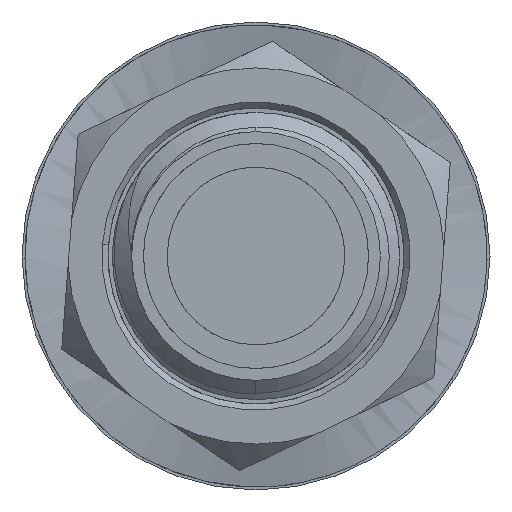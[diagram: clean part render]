
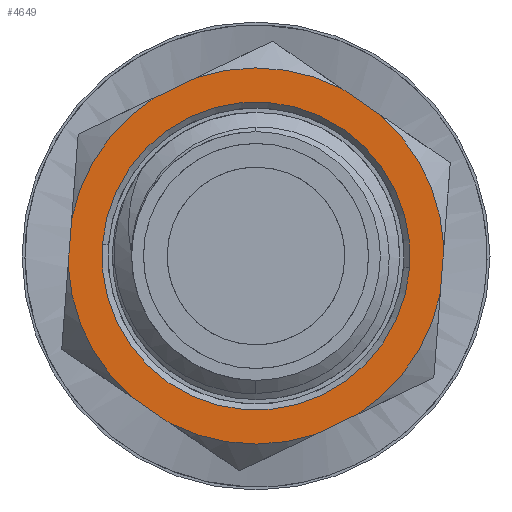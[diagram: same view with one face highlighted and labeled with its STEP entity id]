
A CAD part, front view. The second image highlights one B-rep face of the part: STEP entity #4649.
In plain terms, the highlighted planar face has unit normal (0, -1, 0) as drawn and (0, 0, -1) by its records, which use the part's own axes.
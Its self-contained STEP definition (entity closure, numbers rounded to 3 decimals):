
#39 = DIRECTION ( 'NONE',  ( 0., 0., 1. ) ) ;
#102 = AXIS2_PLACEMENT_3D ( 'NONE', #4194, #5697, #5763 ) ;
#154 = VECTOR ( 'NONE', #4182, 1000. ) ;
#172 = ORIENTED_EDGE ( 'NONE', *, *, #5260, .F. ) ;
#230 = CIRCLE ( 'NONE', #4264, 3.175 ) ;
#363 = VECTOR ( 'NONE', #5917, 1000. ) ;
#369 = CARTESIAN_POINT ( 'NONE',  ( 0., 0., 0. ) ) ;
#458 = CARTESIAN_POINT ( 'NONE',  ( 1.231, 2.927, 0. ) ) ;
#481 = EDGE_CURVE ( 'NONE', #3800, #3149, #3135, .T. ) ;
#497 = EDGE_CURVE ( 'NONE', #4861, #4619, #3025, .T. ) ;
#511 = CARTESIAN_POINT ( 'NONE',  ( 0., 0., 0. ) ) ;
#520 = VERTEX_POINT ( 'NONE', #1035 ) ;
#532 = ORIENTED_EDGE ( 'NONE', *, *, #481, .T. ) ;
#667 = EDGE_CURVE ( 'NONE', #1904, #3149, #3292, .T. ) ;
#858 = ORIENTED_EDGE ( 'NONE', *, *, #3393, .F. ) ;
#876 = CIRCLE ( 'NONE', #6546, 2.6 ) ;
#1008 = DIRECTION ( 'NONE',  ( 1., 0., 0. ) ) ;
#1025 = CARTESIAN_POINT ( 'NONE',  ( -3.15, -1.819, 0. ) ) ;
#1035 = CARTESIAN_POINT ( 'NONE',  ( 3.15, -0.398, 0. ) ) ;
#1058 = EDGE_LOOP ( 'NONE', ( #2445, #3152 ) ) ;
#1103 = VERTEX_POINT ( 'NONE', #3827 ) ;
#1159 = CIRCLE ( 'NONE', #4450, 3.175 ) ;
#1227 = VECTOR ( 'NONE', #5355, 1000. ) ;
#1293 = AXIS2_PLACEMENT_3D ( 'NONE', #511, #39, #1008 ) ;
#1375 = DIRECTION ( 'NONE',  ( 0., 0., -1. ) ) ;
#1463 = DIRECTION ( 'NONE',  ( 0.866, 0.5, 0. ) ) ;
#1534 = DIRECTION ( 'NONE',  ( -0.866, -0.5, 0. ) ) ;
#1536 = ORIENTED_EDGE ( 'NONE', *, *, #667, .F. ) ;
#1574 = CARTESIAN_POINT ( 'NONE',  ( 0., 0., 0. ) ) ;
#1735 = EDGE_CURVE ( 'NONE', #3126, #5843, #1159, .T. ) ;
#1753 = CARTESIAN_POINT ( 'NONE',  ( 3.15, -1.819, 0. ) ) ;
#1790 = CARTESIAN_POINT ( 'NONE',  ( -1.231, -2.927, 0. ) ) ;
#1819 = DIRECTION ( 'NONE',  ( 0., -1., 0. ) ) ;
#1904 = VERTEX_POINT ( 'NONE', #4232 ) ;
#2100 = CARTESIAN_POINT ( 'NONE',  ( -1.919, -2.529, 0. ) ) ;
#2329 = CARTESIAN_POINT ( 'NONE',  ( -2.6, 0., 0. ) ) ;
#2366 = AXIS2_PLACEMENT_3D ( 'NONE', #2646, #4744, #3670 ) ;
#2382 = VECTOR ( 'NONE', #1463, 1000. ) ;
#2445 = ORIENTED_EDGE ( 'NONE', *, *, #5026, .T. ) ;
#2450 = LINE ( 'NONE', #6611, #3801 ) ;
#2514 = LINE ( 'NONE', #5164, #2382 ) ;
#2539 = ORIENTED_EDGE ( 'NONE', *, *, #5580, .F. ) ;
#2646 = CARTESIAN_POINT ( 'NONE',  ( 0., 0., 0. ) ) ;
#2675 = CARTESIAN_POINT ( 'NONE',  ( 1.919, 2.529, 0. ) ) ;
#2765 = CARTESIAN_POINT ( 'NONE',  ( 1.231, -2.927, 0. ) ) ;
#2837 = AXIS2_PLACEMENT_3D ( 'NONE', #5654, #3432, #6095 ) ;
#3025 = CIRCLE ( 'NONE', #102, 3.175 ) ;
#3034 = ORIENTED_EDGE ( 'NONE', *, *, #3187, .T. ) ;
#3059 = AXIS2_PLACEMENT_3D ( 'NONE', #5082, #5519, #3983 ) ;
#3071 = DIRECTION ( 'NONE',  ( 1., 0., 0. ) ) ;
#3126 = VERTEX_POINT ( 'NONE', #2765 ) ;
#3135 = CIRCLE ( 'NONE', #2366, 3.175 ) ;
#3149 = VERTEX_POINT ( 'NONE', #6258 ) ;
#3152 = ORIENTED_EDGE ( 'NONE', *, *, #3753, .T. ) ;
#3187 = EDGE_CURVE ( 'NONE', #1904, #6291, #6630, .T. ) ;
#3199 = LINE ( 'NONE', #4335, #1227 ) ;
#3292 = LINE ( 'NONE', #3906, #3884 ) ;
#3317 = VERTEX_POINT ( 'NONE', #5093 ) ;
#3393 = EDGE_CURVE ( 'NONE', #5372, #6291, #2450, .T. ) ;
#3432 = DIRECTION ( 'NONE',  ( 0., 0., 1. ) ) ;
#3438 = EDGE_CURVE ( 'NONE', #3126, #1103, #2514, .T. ) ;
#3603 = CIRCLE ( 'NONE', #3059, 3.175 ) ;
#3657 = DIRECTION ( 'NONE',  ( 1., 0., 0. ) ) ;
#3670 = DIRECTION ( 'NONE',  ( 1., 0., 0. ) ) ;
#3677 = ORIENTED_EDGE ( 'NONE', *, *, #3438, .F. ) ;
#3681 = DIRECTION ( 'NONE',  ( 0., 0., -1. ) ) ;
#3753 = EDGE_CURVE ( 'NONE', #3317, #5052, #4260, .T. ) ;
#3794 = ORIENTED_EDGE ( 'NONE', *, *, #6456, .F. ) ;
#3800 = VERTEX_POINT ( 'NONE', #2100 ) ;
#3801 = VECTOR ( 'NONE', #1534, 1000. ) ;
#3827 = CARTESIAN_POINT ( 'NONE',  ( 1.919, -2.529, 0. ) ) ;
#3832 = DIRECTION ( 'NONE',  ( 0., 0., 1. ) ) ;
#3884 = VECTOR ( 'NONE', #1819, 1000. ) ;
#3906 = CARTESIAN_POINT ( 'NONE',  ( -3.15, 1.819, 0. ) ) ;
#3983 = DIRECTION ( 'NONE',  ( 1., 0., 0. ) ) ;
#4016 = PLANE ( 'NONE',  #2837 ) ;
#4027 = AXIS2_PLACEMENT_3D ( 'NONE', #1574, #5297, #3657 ) ;
#4102 = EDGE_CURVE ( 'NONE', #5372, #5210, #230, .T. ) ;
#4182 = DIRECTION ( 'NONE',  ( 0.866, -0.5, 0. ) ) ;
#4194 = CARTESIAN_POINT ( 'NONE',  ( 0., 0., 0. ) ) ;
#4211 = ORIENTED_EDGE ( 'NONE', *, *, #4102, .T. ) ;
#4232 = CARTESIAN_POINT ( 'NONE',  ( -3.15, 0.398, 0. ) ) ;
#4260 = CIRCLE ( 'NONE', #1293, 2.6 ) ;
#4264 = AXIS2_PLACEMENT_3D ( 'NONE', #369, #1375, #6127 ) ;
#4335 = CARTESIAN_POINT ( 'NONE',  ( 3.15, 1.819, 0. ) ) ;
#4450 = AXIS2_PLACEMENT_3D ( 'NONE', #6278, #3681, #3071 ) ;
#4454 = ORIENTED_EDGE ( 'NONE', *, *, #1735, .T. ) ;
#4532 = FACE_OUTER_BOUND ( 'NONE', #5403, .T. ) ;
#4565 = CARTESIAN_POINT ( 'NONE',  ( 3.15, 0.398, 0. ) ) ;
#4619 = VERTEX_POINT ( 'NONE', #4565 ) ;
#4649 = ADVANCED_FACE ( 'NONE', ( #5111, #4532 ), #4016, .F. ) ;
#4709 = EDGE_CURVE ( 'NONE', #520, #1103, #3603, .T. ) ;
#4744 = DIRECTION ( 'NONE',  ( 0., 0., -1. ) ) ;
#4861 = VERTEX_POINT ( 'NONE', #2675 ) ;
#5026 = EDGE_CURVE ( 'NONE', #5052, #3317, #876, .T. ) ;
#5052 = VERTEX_POINT ( 'NONE', #2329 ) ;
#5082 = CARTESIAN_POINT ( 'NONE',  ( 0., 0., 0. ) ) ;
#5093 = CARTESIAN_POINT ( 'NONE',  ( 2.6, 0., 0. ) ) ;
#5111 = FACE_BOUND ( 'NONE', #1058, .T. ) ;
#5164 = CARTESIAN_POINT ( 'NONE',  ( 0., -3.637, 0. ) ) ;
#5210 = VERTEX_POINT ( 'NONE', #458 ) ;
#5223 = CARTESIAN_POINT ( 'NONE',  ( -1.919, 2.529, 0. ) ) ;
#5250 = ORIENTED_EDGE ( 'NONE', *, *, #497, .T. ) ;
#5260 = EDGE_CURVE ( 'NONE', #3800, #5843, #6226, .T. ) ;
#5297 = DIRECTION ( 'NONE',  ( 0., 0., -1. ) ) ;
#5355 = DIRECTION ( 'NONE',  ( -0.866, 0.5, 0. ) ) ;
#5372 = VERTEX_POINT ( 'NONE', #6730 ) ;
#5403 = EDGE_LOOP ( 'NONE', ( #2539, #6555, #3677, #4454, #172, #532, #1536, #3034, #858, #4211, #3794, #5250 ) ) ;
#5519 = DIRECTION ( 'NONE',  ( 0., 0., -1. ) ) ;
#5580 = EDGE_CURVE ( 'NONE', #520, #4619, #6425, .T. ) ;
#5654 = CARTESIAN_POINT ( 'NONE',  ( 0., 3.637, 0. ) ) ;
#5697 = DIRECTION ( 'NONE',  ( 0., 0., -1. ) ) ;
#5763 = DIRECTION ( 'NONE',  ( 1., 0., 0. ) ) ;
#5843 = VERTEX_POINT ( 'NONE', #1790 ) ;
#5917 = DIRECTION ( 'NONE',  ( 0., 1., 0. ) ) ;
#5956 = DIRECTION ( 'NONE',  ( 1., 0., 0. ) ) ;
#6095 = DIRECTION ( 'NONE',  ( 1., 0., 0. ) ) ;
#6127 = DIRECTION ( 'NONE',  ( 1., 0., 0. ) ) ;
#6226 = LINE ( 'NONE', #1025, #154 ) ;
#6258 = CARTESIAN_POINT ( 'NONE',  ( -3.15, -0.398, 0. ) ) ;
#6278 = CARTESIAN_POINT ( 'NONE',  ( 0., 0., 0. ) ) ;
#6291 = VERTEX_POINT ( 'NONE', #5223 ) ;
#6425 = LINE ( 'NONE', #1753, #363 ) ;
#6433 = CARTESIAN_POINT ( 'NONE',  ( 0., 0., 0. ) ) ;
#6456 = EDGE_CURVE ( 'NONE', #4861, #5210, #3199, .T. ) ;
#6546 = AXIS2_PLACEMENT_3D ( 'NONE', #6433, #3832, #5956 ) ;
#6555 = ORIENTED_EDGE ( 'NONE', *, *, #4709, .T. ) ;
#6611 = CARTESIAN_POINT ( 'NONE',  ( 0., 3.637, 0. ) ) ;
#6630 = CIRCLE ( 'NONE', #4027, 3.175 ) ;
#6730 = CARTESIAN_POINT ( 'NONE',  ( -1.231, 2.927, 0. ) ) ;
